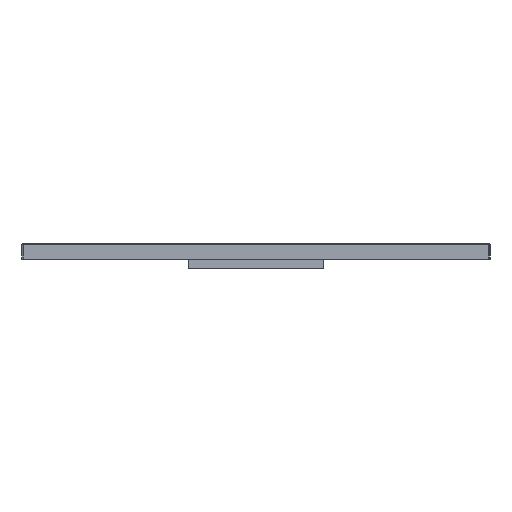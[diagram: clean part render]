
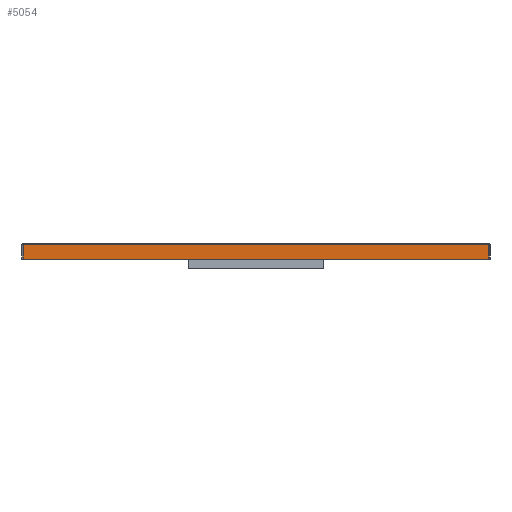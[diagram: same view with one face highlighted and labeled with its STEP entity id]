
A CAD part, left-side view. The second image highlights one B-rep face of the part: STEP entity #5054.
In plain terms, the highlighted planar face has unit normal (-1, 0, 0).
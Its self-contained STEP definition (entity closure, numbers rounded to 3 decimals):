
#194 = CARTESIAN_POINT ( 'NONE',  ( -84.056, 936.93, -30. ) ) ;
#272 = CARTESIAN_POINT ( 'NONE',  ( -84.056, 484.931, -2.072 ) ) ;
#341 = CARTESIAN_POINT ( 'NONE',  ( -84.056, 825.936, -2.08 ) ) ;
#370 = FACE_OUTER_BOUND ( 'NONE', #4653, .T. ) ;
#723 = ORIENTED_EDGE ( 'NONE', *, *, #4288, .F. ) ;
#966 = CARTESIAN_POINT ( 'NONE',  ( -84.056, 40.93, -30. ) ) ;
#1174 = LINE ( 'NONE', #966, #5572 ) ;
#1184 = CARTESIAN_POINT ( 'NONE',  ( -84.056, 931.416, -2.014 ) ) ;
#1254 = CARTESIAN_POINT ( 'NONE',  ( -84.056, 54.735, -2.032 ) ) ;
#1260 = CARTESIAN_POINT ( 'NONE',  ( -84.056, 40.93, -2.004 ) ) ;
#1387 = ORIENTED_EDGE ( 'NONE', *, *, #10600, .F. ) ;
#1389 = CARTESIAN_POINT ( 'NONE',  ( -84.056, 586.251, -2.072 ) ) ;
#1423 = ORIENTED_EDGE ( 'NONE', *, *, #12808, .F. ) ;
#1656 = ORIENTED_EDGE ( 'NONE', *, *, #8976, .F. ) ;
#2135 = DIRECTION ( 'NONE',  ( 0., 1., 0. ) ) ;
#2510 = CARTESIAN_POINT ( 'NONE',  ( -84.056, 374.742, -2.072 ) ) ;
#3214 = CARTESIAN_POINT ( 'NONE',  ( -84.056, 892.135, -2.084 ) ) ;
#3286 = CARTESIAN_POINT ( 'NONE',  ( -84.056, 40.93, -2.004 ) ) ;
#3371 = LINE ( 'NONE', #7416, #3669 ) ;
#3669 = VECTOR ( 'NONE', #11194, 1000. ) ;
#4271 = CARTESIAN_POINT ( 'NONE',  ( -84.056, 84.087, -2.082 ) ) ;
#4288 = EDGE_CURVE ( 'NONE', #8964, #5451, #3371, .T. ) ;
#4335 = CARTESIAN_POINT ( 'NONE',  ( -84.056, 788.271, -2.076 ) ) ;
#4364 = PLANE ( 'NONE',  #5331 ) ;
#4465 = CARTESIAN_POINT ( 'NONE',  ( -84.056, 46.371, -2.014 ) ) ;
#4653 = EDGE_LOOP ( 'NONE', ( #1387, #1423, #723, #1656 ) ) ;
#4757 = LINE ( 'NONE', #12490, #12256 ) ;
#5054 = ADVANCED_FACE ( 'NONE', ( #370 ), #4364, .F. ) ;
#5166 = CARTESIAN_POINT ( 'NONE',  ( -84.056, 922.952, -2.032 ) ) ;
#5305 = CARTESIAN_POINT ( 'NONE',  ( -84.056, 102.15, -2.088 ) ) ;
#5331 = AXIS2_PLACEMENT_3D ( 'NONE', #10175, #11279, #2135 ) ;
#5439 = CARTESIAN_POINT ( 'NONE',  ( -84.056, 147.307, -2.08 ) ) ;
#5451 = VERTEX_POINT ( 'NONE', #7208 ) ;
#5572 = VECTOR ( 'NONE', #9086, 1000. ) ;
#6149 = CARTESIAN_POINT ( 'NONE',  ( -84.056, 935.314, -2.008 ) ) ;
#6419 = CARTESIAN_POINT ( 'NONE',  ( -84.056, 183.432, -2.077 ) ) ;
#6733 = VERTEX_POINT ( 'NONE', #1260 ) ;
#7195 = CARTESIAN_POINT ( 'NONE',  ( -84.056, 872.732, -2.088 ) ) ;
#7208 = CARTESIAN_POINT ( 'NONE',  ( -84.056, 936.93, -2.004 ) ) ;
#7416 = CARTESIAN_POINT ( 'NONE',  ( -84.056, 936.93, -30. ) ) ;
#8458 = CARTESIAN_POINT ( 'NONE',  ( -84.056, 740.334, -2.075 ) ) ;
#8964 = VERTEX_POINT ( 'NONE', #194 ) ;
#8976 = EDGE_CURVE ( 'NONE', #12684, #8964, #1174, .T. ) ;
#9086 = DIRECTION ( 'NONE',  ( 0., 1., 0. ) ) ;
#9098 = CARTESIAN_POINT ( 'NONE',  ( -84.056, 40.93, -30. ) ) ;
#9235 = CARTESIAN_POINT ( 'NONE',  ( -84.056, 219.558, -2.075 ) ) ;
#9304 = CARTESIAN_POINT ( 'NONE',  ( -84.056, 42.522, -2.008 ) ) ;
#9437 = CARTESIAN_POINT ( 'NONE',  ( -84.056, 122.471, -2.085 ) ) ;
#10175 = CARTESIAN_POINT ( 'NONE',  ( -84.056, 938.93, 0. ) ) ;
#10600 = EDGE_CURVE ( 'NONE', #6733, #12684, #4757, .T. ) ;
#11108 = CARTESIAN_POINT ( 'NONE',  ( -84.056, 936.93, -2.004 ) ) ;
#11179 = CARTESIAN_POINT ( 'NONE',  ( -84.056, 849.905, -2.084 ) ) ;
#11194 = DIRECTION ( 'NONE',  ( 0., 0., 1. ) ) ;
#11279 = DIRECTION ( 'NONE',  ( 1., 0., 0. ) ) ;
#11384 = CARTESIAN_POINT ( 'NONE',  ( -84.056, 68.282, -2.059 ) ) ;
#12171 = CARTESIAN_POINT ( 'NONE',  ( -84.056, 909.255, -2.06 ) ) ;
#12238 = CARTESIAN_POINT ( 'NONE',  ( -84.056, 668.429, -2.073 ) ) ;
#12256 = VECTOR ( 'NONE', #12615, 1000. ) ;
#12437 = CARTESIAN_POINT ( 'NONE',  ( -84.056, 286.338, -2.073 ) ) ;
#12490 = CARTESIAN_POINT ( 'NONE',  ( -84.056, 40.93, -2.004 ) ) ;
#12615 = DIRECTION ( 'NONE',  ( 0., 0., -1. ) ) ;
#12684 = VERTEX_POINT ( 'NONE', #9098 ) ;
#12727 = B_SPLINE_CURVE_WITH_KNOTS ( 'NONE', 3,
 ( #11108, #6149, #1184, #5166, #12171, #3214, #7195, #11179, #341, #4335, #8458, #12238, #1389, #272, #2510, #12437, #9235, #6419, #5439, #9437, #5305, #4271, #11384, #1254, #4465, #9304, #3286 ),
 .UNSPECIFIED., .F., .F.,
 ( 4, 1, 1, 1, 1, 1, 1, 1, 1, 1, 1, 1, 1, 1, 1, 1, 1, 1, 1, 1, 1, 1, 1, 1, 4 ),
 ( 2., 6.848, 13.696, 27.393, 47.937, 65.057, 85.602, 116.418, 136.963, 198.596, 260.23, 352.68, 445.13, 564.189, 683.247, 710.342, 764.53, 791.624, 818.718, 839.038, 852.585, 872.906, 886.453, 893.227, 898. ),
 .UNSPECIFIED. ) ;
#12808 = EDGE_CURVE ( 'NONE', #5451, #6733, #12727, .T. ) ;
